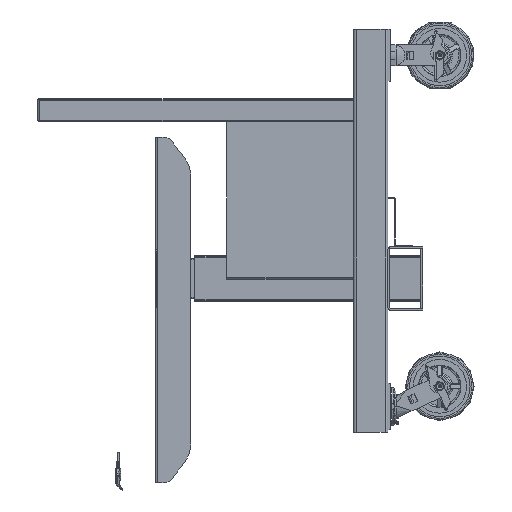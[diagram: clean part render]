
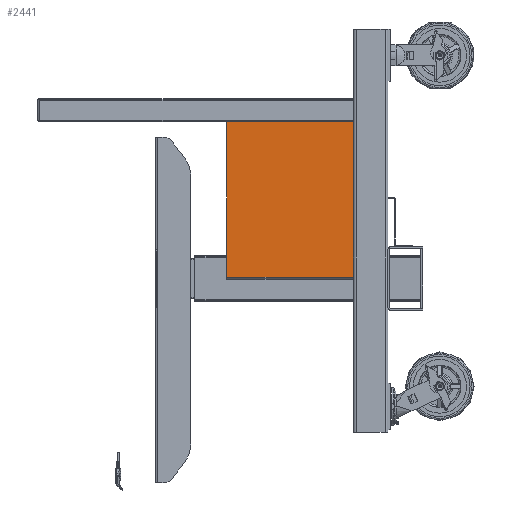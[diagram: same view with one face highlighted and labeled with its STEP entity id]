
A CAD part, left-side view. The second image highlights one B-rep face of the part: STEP entity #2441.
In plain terms, the highlighted planar face has unit normal (-1, 0, 0).
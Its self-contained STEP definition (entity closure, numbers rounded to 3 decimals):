
#2441 = ADVANCED_FACE ( 'NONE', ( #82959 ), #7990, .T. ) ;
#5609 = CARTESIAN_POINT ( 'NONE',  ( 23.9, -443.575, 685.7 ) ) ;
#6784 = LINE ( 'NONE', #155820, #102196 ) ;
#7570 = CARTESIAN_POINT ( 'NONE',  ( 23.9, -443.575, 341.96 ) ) ;
#7990 = PLANE ( 'NONE',  #116961 ) ;
#20706 = CARTESIAN_POINT ( 'NONE',  ( 23.9, -164.175, 341.96 ) ) ;
#25494 = EDGE_CURVE ( 'NONE', #189212, #102603, #100303, .T. ) ;
#34409 = CARTESIAN_POINT ( 'NONE',  ( 23.9, -443.575, 685.7 ) ) ;
#36428 = EDGE_LOOP ( 'NONE', ( #111737, #95390, #96723, #192214 ) ) ;
#46934 = CARTESIAN_POINT ( 'NONE',  ( 23.9, -303.875, 512. ) ) ;
#50927 = DIRECTION ( 'NONE',  ( 0., 0., 1. ) ) ;
#54816 = VECTOR ( 'NONE', #50927, 1000. ) ;
#64088 = DIRECTION ( 'NONE',  ( 0., 1., 0. ) ) ;
#67557 = VERTEX_POINT ( 'NONE', #112626 ) ;
#72014 = DIRECTION ( 'NONE',  ( 0., 0., -1. ) ) ;
#82959 = FACE_OUTER_BOUND ( 'NONE', #36428, .T. ) ;
#83724 = LINE ( 'NONE', #156783, #127192 ) ;
#95390 = ORIENTED_EDGE ( 'NONE', *, *, #154335, .T. ) ;
#96723 = ORIENTED_EDGE ( 'NONE', *, *, #25494, .T. ) ;
#97945 = EDGE_CURVE ( 'NONE', #67557, #106702, #6784, .T. ) ;
#100303 = LINE ( 'NONE', #5609, #54816 ) ;
#102196 = VECTOR ( 'NONE', #158759, 1000. ) ;
#102603 = VERTEX_POINT ( 'NONE', #139369 ) ;
#106702 = VERTEX_POINT ( 'NONE', #20706 ) ;
#109505 = LINE ( 'NONE', #34409, #135365 ) ;
#111737 = ORIENTED_EDGE ( 'NONE', *, *, #97945, .T. ) ;
#112626 = CARTESIAN_POINT ( 'NONE',  ( 23.9, -164.175, 685.7 ) ) ;
#116961 = AXIS2_PLACEMENT_3D ( 'NONE', #46934, #176702, #72014 ) ;
#127192 = VECTOR ( 'NONE', #141948, 1000. ) ;
#135365 = VECTOR ( 'NONE', #64088, 1000. ) ;
#139369 = CARTESIAN_POINT ( 'NONE',  ( 23.9, -443.575, 685.7 ) ) ;
#141948 = DIRECTION ( 'NONE',  ( 0., -1., 0. ) ) ;
#154335 = EDGE_CURVE ( 'NONE', #106702, #189212, #83724, .T. ) ;
#155820 = CARTESIAN_POINT ( 'NONE',  ( 23.9, -164.175, 685.7 ) ) ;
#156783 = CARTESIAN_POINT ( 'NONE',  ( 23.9, -164.175, 341.96 ) ) ;
#158759 = DIRECTION ( 'NONE',  ( 0., 0., -1. ) ) ;
#176702 = DIRECTION ( 'NONE',  ( -1., 0., 0. ) ) ;
#182545 = EDGE_CURVE ( 'NONE', #102603, #67557, #109505, .T. ) ;
#189212 = VERTEX_POINT ( 'NONE', #7570 ) ;
#192214 = ORIENTED_EDGE ( 'NONE', *, *, #182545, .T. ) ;
